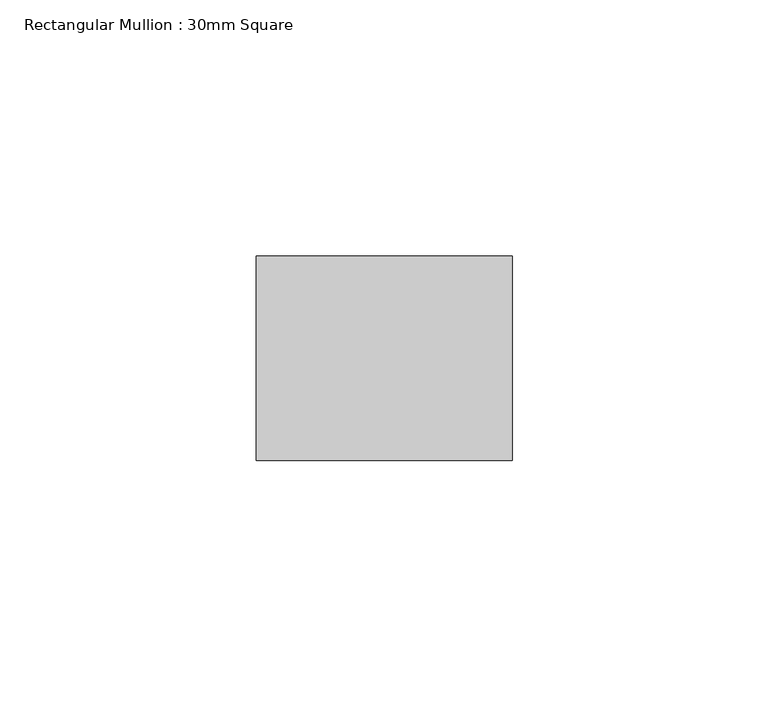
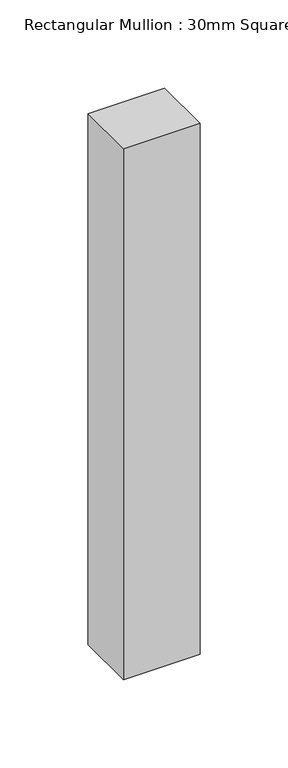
"""IFC4 building model written with IfcOpenShell, lengths in millimetres: member geometry, Rectangular Mullion : 30mm Square."""

from ifc_helpers import new_model, si_unit, frame, origin, place, context, project, spatial, polyline, outline, extrude, source, transform, mapped, element, save


def rectangular_mullion_30mm_square_6a42bf5c(model_context):
    return source(origin(), model_context, "Body", "SweptSolid", [
        extrude(outline(polyline([(25.0, 20.0), (25.0, -20.0), (-25.0, -20.0), (-25.0, 20.0), (25.0, 20.0)])), frame((0.0, 0.0, -367.1572875), z_axis=(0.0, 0.0, 1.0), x_axis=(1.0, 0.0, 0.0)), (0.0, 0.0, 1.0), 367.1572875),
    ])


if __name__ == "__main__":
    model = new_model("IFC4")
    model_context = context("Model", 3, world=origin())
    ifc_project = project(units=[si_unit("LENGTHUNIT", "METRE", prefix="MILLI")], contexts=[model_context])
    site = spatial("IfcSite", under=ifc_project)
    building = spatial("IfcBuilding", under=site)
    placement = place(None, origin())
    rectangular_mullion_30mm_square_shape = rectangular_mullion_30mm_square_6a42bf5c(model_context)
    element("IfcMember", 1, ObjectType="Rectangular Mullion : 30mm Square", at=placement, inside=building, context=model_context, shape_type="MappedRepresentation", body=[
        mapped(rectangular_mullion_30mm_square_shape, transform((0.0, 0.0, 0.0), x_axis=(1.0, 0.0, 0.0), y_axis=(0.0, 1.0, 0.0), z_axis=(0.0, 0.0, 1.0))),
    ])
    save(model, "model.ifc")
